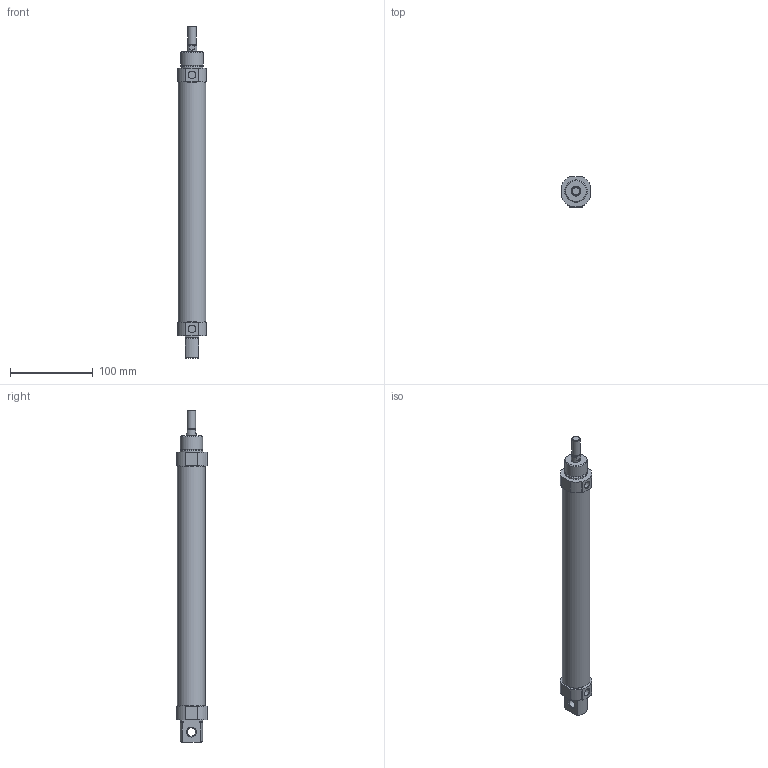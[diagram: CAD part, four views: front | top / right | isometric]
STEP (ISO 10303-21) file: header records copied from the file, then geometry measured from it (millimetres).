
FILE_DESCRIPTION((''),'2;1');
FILE_NAME('I:\3D電子目錄\氣缸\SDA\SDA32\SDA32\SDA32x250.stp','2007-08-06T10:35:45',('Administrator'),(''),'Autodesk Inventor 2008','Autodesk Inventor 2008','');
FILE_SCHEMA(('AUTOMOTIVE_DESIGN { 1 0 10303 214 1 1 1 1 }'));
Length unit declared in the file: millimetre
Products named in the file (1): SDA32X250
Bounding box: 35 x 36.5 x 400 mm (x, y, z)
Volume: 314593.9 mm3; surface area: 42929.7 mm2
Topology: 1 solids, 1 shells, 65 faces, 152 edges, 98 vertices
Faces by surface type: plane 27, cylinder 21, cone 12, torus 3, bspline 2
Full cylindrical faces by diameter (mm): 8.5 x2, 8.6 x1, 10 x2, 12 x1, 27 x2, 33.6 x1
Entity records: 1946 total; most frequent: CARTESIAN_POINT 486, DIRECTION 306, ORIENTED_EDGE 266, EDGE_CURVE 133, AXIS2_PLACEMENT_3D 121, VERTEX_POINT 97, EDGE_LOOP 94, FACE_OUTER_BOUND 65
